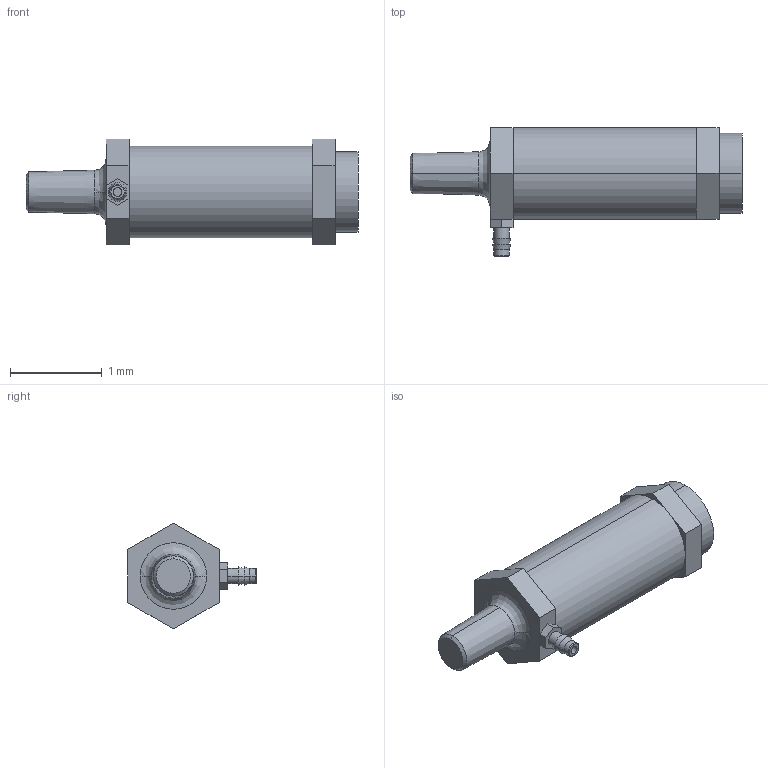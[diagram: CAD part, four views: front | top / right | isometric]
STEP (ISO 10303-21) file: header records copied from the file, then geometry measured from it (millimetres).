
FILE_DESCRIPTION((''),'2;1');
FILE_NAME('XB2.stp','2017-11-07T11:36:56',(''),(''),'Mechanical Desktop 2011','Mechanical Desktop 2011',', , ');
FILE_SCHEMA(('CONFIG_CONTROL_DESIGN'));
Length unit declared in the file: millimetre
Products named in the file (1): Product
Bounding box: 3.62 x 1.41 x 1.15 mm (x, y, z)
Volume: 2.3 mm3; surface area: 16.6 mm2
Topology: 5 solids, 5 shells, 54 faces, 115 edges, 75 vertices
Faces by surface type: plane 32, cylinder 10, cone 8, torus 2, bspline 2
Entity records: 1633 total; most frequent: CARTESIAN_POINT 333, DIRECTION 264, ORIENTED_EDGE 230, EDGE_CURVE 115, AXIS2_PLACEMENT_3D 96, VERTEX_POINT 75, VECTOR 72, LINE 72
